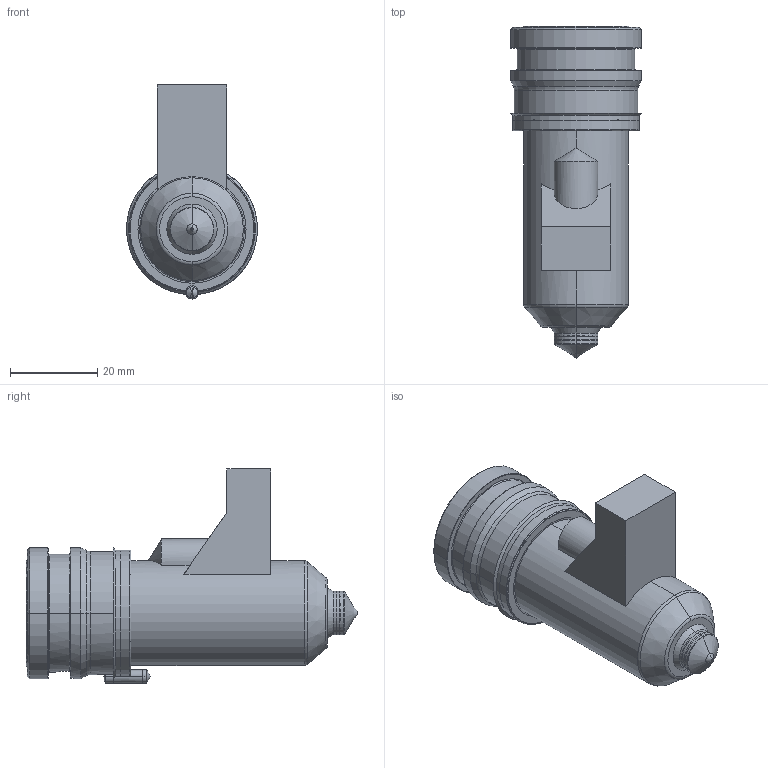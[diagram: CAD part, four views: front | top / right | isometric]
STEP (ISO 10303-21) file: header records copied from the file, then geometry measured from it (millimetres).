
FILE_DESCRIPTION((''),'2;1');
FILE_NAME('MPN-10-29-TS10-056-M','2026-02-05T12:48:47',('UPTIO'),('Thermoplay S.p.A.'),'CREO PARAMETRIC BY PTC INC, 2023494','CREO PARAMETRIC BY PTC INC, 2023494','');
FILE_SCHEMA(('CONFIG_CONTROL_DESIGN','SHAPE_APPEARANCE_LAYERS_GROUPS'));
Length unit declared in the file: millimetre
Products named in the file (1): MPN-10-29-TS10-056-M
Bounding box: 30 x 76 x 49 mm (x, y, z)
Volume: 25195.1 mm3; surface area: 25701.7 mm2
Topology: 3 solids, 5 shells, 542 faces, 1383 edges, 843 vertices
Faces by surface type: cylinder 177, plane 148, bspline 72, torus 67, cone 64, sphere 10, extrusion 4
Entity records: 29270 total; most frequent: CARTESIAN_POINT 13494, ORIENTED_EDGE 2748, DIRECTION 2578, EDGE_CURVE 1374, AXIS2_PLACEMENT_3D 1023, VERTEX_POINT 843, EDGE_LOOP 571, CIRCLE 556
